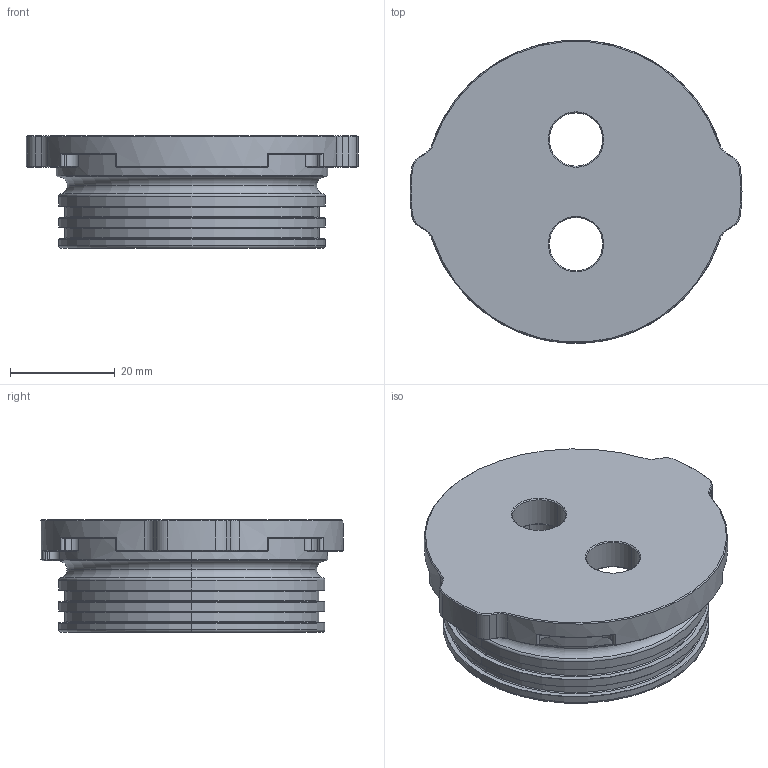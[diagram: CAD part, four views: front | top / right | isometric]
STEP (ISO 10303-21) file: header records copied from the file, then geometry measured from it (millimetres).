
FILE_DESCRIPTION (( 'STEP AP214' ), '1' );
FILE_NAME ('BR-102922-002_Rev_2.step', '2024-12-10T19:34:51', ( '' ), ( '' ), 'SwSTEP 2.0', 'SolidWorks 2024', '' );
FILE_SCHEMA (( 'AUTOMOTIVE_DESIGN' ));
Length unit declared in the file: millimetre
Products named in the file (1): BR-102922-002_Rev_2
Bounding box: 63.5 x 57.94 x 21.5 mm (x, y, z)
Volume: 21673.2 mm3; surface area: 12947.6 mm2
Topology: 1 solids, 1 shells, 535 faces, 1366 edges, 827 vertices
Faces by surface type: cylinder 258, cone 155, plane 69, torus 41, bspline 12
Entity records: 25332 total; most frequent: CARTESIAN_POINT 13229, ORIENTED_EDGE 2684, DIRECTION 2495, EDGE_CURVE 1342, AXIS2_PLACEMENT_3D 975, VERTEX_POINT 827, EDGE_LOOP 557, LINE 545
